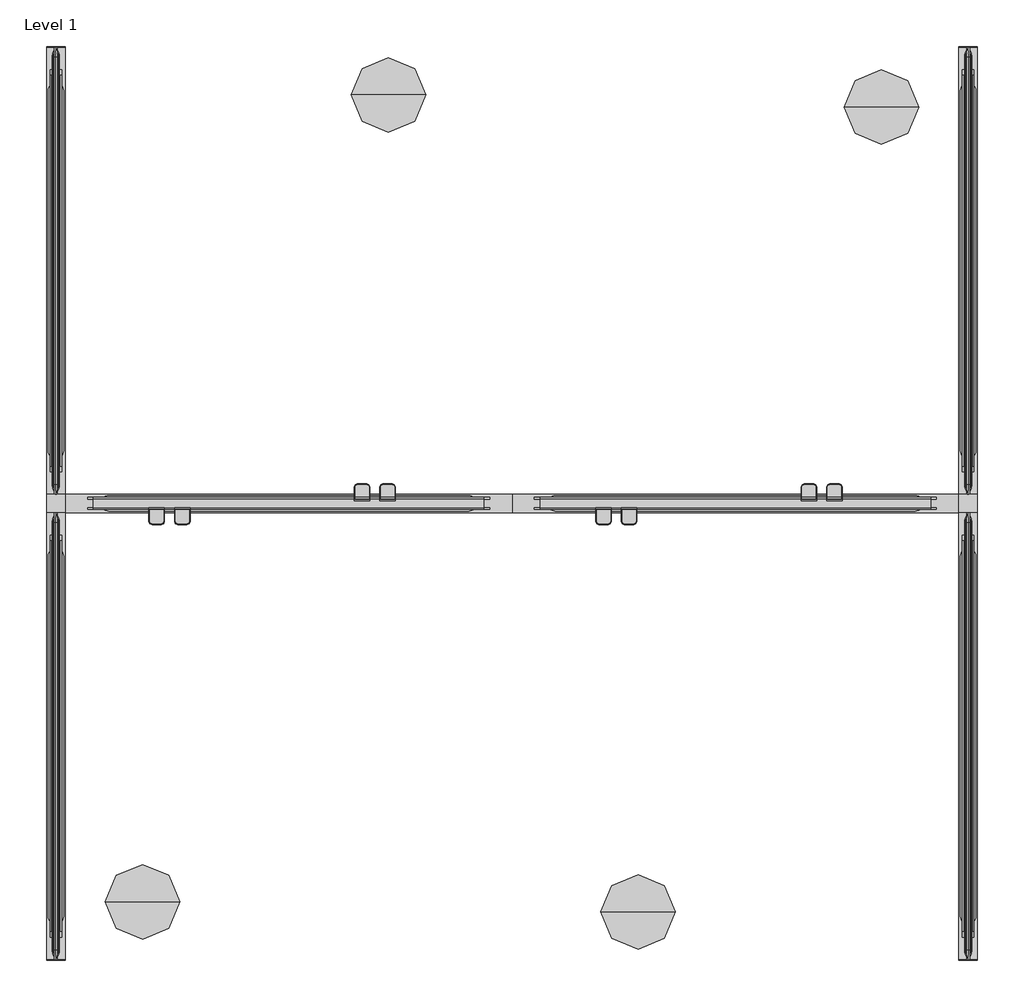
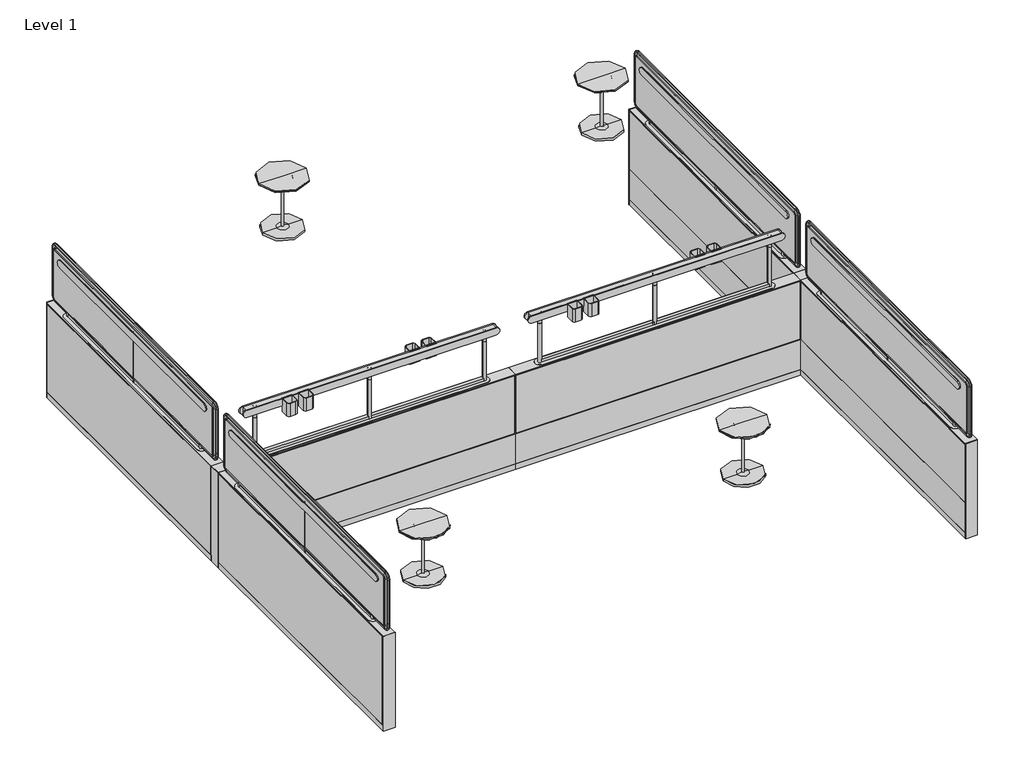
# One storey, incomplete: 22 furniture elements, 4 light fixtures.
"""IFC4 building model written with IfcOpenShell, lengths in millimetres."""

from ifc_helpers import new_model, si_unit, origin, place, context, project, spatial, transform, mapped, element, save
from components import haworth_belong_tool_cup_tool_cup_314b2932, haworth_composeecho_accessoryframe_02b97702, haworth_composeecho_accessoryframe_72w_16h_583df38f, haworth_composeecho_accessoryframe_72w_16h_d8a9d56e, haworth_compose_panel_post_26h_90_degree_7922b5fd, haworth_compose_panel_post_26h_90_degree_e78f71a2, haworth_compose_panel_solid_25h_72w_a4209a23, haworth_compose_panel_solid_25h_72w_62773ed1, haworth_compose_panel_solid_25h_72w_005dc976, haworth_compose_panel_solid_25h_72w_b2298db5, haworth_circa_light_lrt1_1408_table_light_ecc5e699

model = new_model("IFC4")

# Units and contexts
model_context = context("Model", 3, world=origin())
ifc_project = project(units=[si_unit("LENGTHUNIT", "METRE", prefix="MILLI")], contexts=[model_context])

# Site, building, storey
site = spatial("IfcSite", under=ifc_project)
building = spatial("IfcBuilding", under=site)
storey = spatial("IfcBuildingStorey", under=building, Name="Level 1", Elevation=0.0)

# Furniture
placement = place(None, origin())
haworth_belong_tool_cup_tool_cup_shape = haworth_belong_tool_cup_tool_cup_314b2932(model_context)
element("IfcFurniture", 1, ObjectType="Haworth_Belong_Tool_Cup : Tool Cup", at=placement, inside=storey, context=model_context, shape_type="MappedRepresentation", body=[
    mapped(haworth_belong_tool_cup_tool_cup_shape, transform((440.752612, 61.4682245, 917.21305), x_axis=(1.0, 0.0, 0.0), y_axis=(0.0, 1.0, 0.0), z_axis=(0.0, 0.0, 1.0))),
])
element("IfcFurniture", 2, ObjectType="Haworth_Belong_Tool_Cup : Tool Cup", at=placement, inside=storey, context=model_context, shape_type="MappedRepresentation", body=[
    mapped(haworth_belong_tool_cup_tool_cup_shape, transform((335.8950132, 61.4682245, 917.21305), x_axis=(1.0, 0.0, 0.0), y_axis=(0.0, 1.0, 0.0), z_axis=(0.0, 0.0, 1.0))),
])
element("IfcFurniture", 3, ObjectType="Haworth_Belong_Tool_Cup : Tool Cup", at=placement, inside=storey, context=model_context, shape_type="MappedRepresentation", body=[
    mapped(haworth_belong_tool_cup_tool_cup_shape, transform((1611.2967034, 101.1978524, 917.21305), x_axis=(-0.9999999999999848, -1.7484555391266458e-07, 0.0), y_axis=(1.7484555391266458e-07, -0.9999999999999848, 0.0), z_axis=(0.0, 0.0, 1.0))),
])
element("IfcFurniture", 4, ObjectType="Haworth_Belong_Tool_Cup : Tool Cup", at=placement, inside=storey, context=model_context, shape_type="MappedRepresentation", body=[
    mapped(haworth_belong_tool_cup_tool_cup_shape, transform((1506.747908, 101.1978342, 917.21305), x_axis=(-0.9999999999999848, -1.7484555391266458e-07, 0.0), y_axis=(1.7484555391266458e-07, -0.9999999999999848, 0.0), z_axis=(0.0, 0.0, 1.0))),
])
element("IfcFurniture", 5, ObjectType="Haworth_Belong_Tool_Cup : Tool Cup", at=placement, inside=storey, context=model_context, shape_type="MappedRepresentation", body=[
    mapped(haworth_belong_tool_cup_tool_cup_shape, transform((-1388.047388, 61.4682245, 917.21305), x_axis=(1.0, 0.0, 0.0), y_axis=(0.0, 1.0, 0.0), z_axis=(0.0, 0.0, 1.0))),
])
element("IfcFurniture", 6, ObjectType="Haworth_Belong_Tool_Cup : Tool Cup", at=placement, inside=storey, context=model_context, shape_type="MappedRepresentation", body=[
    mapped(haworth_belong_tool_cup_tool_cup_shape, transform((-1492.9049868, 61.4682245, 917.21305), x_axis=(1.0, 0.0, 0.0), y_axis=(0.0, 1.0, 0.0), z_axis=(0.0, 0.0, 1.0))),
])
element("IfcFurniture", 7, ObjectType="Haworth_Belong_Tool_Cup : Tool Cup", at=placement, inside=storey, context=model_context, shape_type="MappedRepresentation", body=[
    mapped(haworth_belong_tool_cup_tool_cup_shape, transform((-217.5032966, 101.1975327, 917.21305), x_axis=(-0.9999999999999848, -1.7484555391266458e-07, 0.0), y_axis=(1.7484555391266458e-07, -0.9999999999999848, 0.0), z_axis=(0.0, 0.0, 1.0))),
])
element("IfcFurniture", 8, ObjectType="Haworth_Belong_Tool_Cup : Tool Cup", at=placement, inside=storey, context=model_context, shape_type="MappedRepresentation", body=[
    mapped(haworth_belong_tool_cup_tool_cup_shape, transform((-322.052092, 101.1975144, 917.21305), x_axis=(-0.9999999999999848, -1.7484555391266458e-07, 0.0), y_axis=(1.7484555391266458e-07, -0.9999999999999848, 0.0), z_axis=(0.0, 0.0, 1.0))),
])
haworth_composeecho_accessoryframe_shape = haworth_composeecho_accessoryframe_02b97702(model_context)
element("IfcFurniture", 9, ObjectType="Haworth_ComposeEcho_AccessoryFrame : 72w 13h No Frame", at=placement, inside=storey, context=model_context, shape_type="MappedRepresentation", body=[
    mapped(haworth_composeecho_accessoryframe_shape, transform((1038.3704052, 84.4867887, -409.575), x_axis=(1.0, 0.0, 0.0), y_axis=(0.0, 1.0, 0.0), z_axis=(0.0, 0.0, 1.0))),
])
element("IfcFurniture", 10, ObjectType="Haworth_ComposeEcho_AccessoryFrame : 72w 13h No Frame", at=placement, inside=storey, context=model_context, shape_type="MappedRepresentation", body=[
    mapped(haworth_composeecho_accessoryframe_shape, transform((-790.4295948, 84.4867887, -409.575), x_axis=(1.0, 0.0, 0.0), y_axis=(0.0, 1.0, 0.0), z_axis=(0.0, 0.0, 1.0))),
])
haworth_composeecho_accessoryframe_72w_16h_shape = haworth_composeecho_accessoryframe_72w_16h_583df38f(model_context)
element("IfcFurniture", 11, ObjectType="Haworth_ComposeEcho_AccessoryFrame : 72w 16h", at=placement, inside=storey, context=model_context, shape_type="MappedRepresentation", body=[
    mapped(haworth_composeecho_accessoryframe_72w_16h_shape, transform((1993.3106844, 1034.546499, -409.575), x_axis=(0.0, 1.0, 0.0), y_axis=(-1.0, 0.0, 0.0), z_axis=(0.0, 0.0, 1.0))),
])
element("IfcFurniture", 12, ObjectType="Haworth_ComposeEcho_AccessoryFrame : 72w 16h", at=placement, inside=storey, context=model_context, shape_type="MappedRepresentation", body=[
    mapped(haworth_composeecho_accessoryframe_72w_16h_shape, transform((-1740.4892938, -865.5729207, -409.575), x_axis=(0.0, -1.0, 0.0), y_axis=(1.0, 0.0, 0.0), z_axis=(0.0, 0.0, 1.0))),
])
haworth_composeecho_accessoryframe_72w_16h_2_shape = haworth_composeecho_accessoryframe_72w_16h_d8a9d56e(model_context)
element("IfcFurniture", 13, ObjectType="Haworth_ComposeEcho_AccessoryFrame : 72w 16h", at=placement, inside=storey, context=model_context, shape_type="MappedRepresentation", body=[
    mapped(haworth_composeecho_accessoryframe_72w_16h_2_shape, transform((1993.3107062, -865.5729207, -409.575), x_axis=(0.0, -1.0, 0.0), y_axis=(1.0, 0.0, 0.0), z_axis=(0.0, 0.0, 1.0))),
])
element("IfcFurniture", 14, ObjectType="Haworth_ComposeEcho_AccessoryFrame : 72w 16h", at=placement, inside=storey, context=model_context, shape_type="MappedRepresentation", body=[
    mapped(haworth_composeecho_accessoryframe_72w_16h_2_shape, transform((-1740.4892938, 1034.546499, -409.575), x_axis=(0.0, 1.0, 0.0), y_axis=(-1.0, 0.0, 0.0), z_axis=(0.0, 0.0, 1.0))),
])
haworth_compose_panel_post_26h_90_degree_shape = haworth_compose_panel_post_26h_90_degree_7922b5fd(model_context)
element("IfcFurniture", 15, ObjectType="Haworth_Compose_Panel_Post : 26h - 90 Degree", at=placement, inside=storey, context=model_context, shape_type="MappedRepresentation", body=[
    mapped(haworth_compose_panel_post_26h_90_degree_shape, transform((1955.2106953, 84.4867892, 0.0), x_axis=(1.0, 0.0, 0.0), y_axis=(0.0, 1.0, 0.0), z_axis=(0.0, 0.0, 1.0))),
])
haworth_compose_panel_post_26h_90_degree_2_shape = haworth_compose_panel_post_26h_90_degree_e78f71a2(model_context)
element("IfcFurniture", 16, ObjectType="Haworth_Compose_Panel_Post : 26h - 90 Degree", at=placement, inside=storey, context=model_context, shape_type="MappedRepresentation", body=[
    mapped(haworth_compose_panel_post_26h_90_degree_2_shape, transform((-1702.3893047, 84.4867892, 0.0), x_axis=(-1.0, 0.0, 0.0), y_axis=(0.0, -1.0, 0.0), z_axis=(0.0, 0.0, 1.0))),
])
haworth_compose_panel_solid_25h_72w_shape = haworth_compose_panel_solid_25h_72w_a4209a23(model_context)
element("IfcFurniture", 17, ObjectType="Haworth_Compose_Panel_Solid : 25h 72w", at=placement, inside=storey, context=model_context, shape_type="MappedRepresentation", body=[
    mapped(haworth_compose_panel_solid_25h_72w_shape, transform((1038.3704052, 84.4867892, 0.0), x_axis=(1.0, 0.0, 0.0), y_axis=(0.0, 1.0, 0.0), z_axis=(0.0, 0.0, 1.0))),
])
haworth_compose_panel_solid_25h_72w_2_shape = haworth_compose_panel_solid_25h_72w_62773ed1(model_context)
element("IfcFurniture", 18, ObjectType="Haworth_Compose_Panel_Solid : 25h 72w", at=placement, inside=storey, context=model_context, shape_type="MappedRepresentation", body=[
    mapped(haworth_compose_panel_solid_25h_72w_2_shape, transform((-785.5490145, 84.4867892, 0.0), x_axis=(-1.0, 0.0, 0.0), y_axis=(0.0, -1.0, 0.0), z_axis=(0.0, 0.0, 1.0))),
])
haworth_compose_panel_solid_25h_72w_3_shape = haworth_compose_panel_solid_25h_72w_005dc976(model_context)
element("IfcFurniture", 19, ObjectType="Haworth_Compose_Panel_Solid : 25h 72w", at=placement, inside=storey, context=model_context, shape_type="MappedRepresentation", body=[
    mapped(haworth_compose_panel_solid_25h_72w_3_shape, transform((1993.3106953, -865.5729207, 0.0), x_axis=(0.0, -1.0, 0.0), y_axis=(1.0, 0.0, 0.0), z_axis=(0.0, 0.0, 1.0))),
])
haworth_compose_panel_solid_25h_72w_4_shape = haworth_compose_panel_solid_25h_72w_b2298db5(model_context)
element("IfcFurniture", 20, ObjectType="Haworth_Compose_Panel_Solid : 25h 72w", at=placement, inside=storey, context=model_context, shape_type="MappedRepresentation", body=[
    mapped(haworth_compose_panel_solid_25h_72w_4_shape, transform((1993.3106953, 1034.546499, 0.0), x_axis=(0.0, 1.0, 0.0), y_axis=(-1.0, 0.0, 0.0), z_axis=(0.0, 0.0, 1.0))),
])
element("IfcFurniture", 21, ObjectType="Haworth_Compose_Panel_Solid : 25h 72w", at=placement, inside=storey, context=model_context, shape_type="MappedRepresentation", body=[
    mapped(haworth_compose_panel_solid_25h_72w_4_shape, transform((-1740.4893047, -865.5729207, 0.0), x_axis=(0.0, -1.0, 0.0), y_axis=(1.0, 0.0, 0.0), z_axis=(0.0, 0.0, 1.0))),
])
element("IfcFurniture", 22, ObjectType="Haworth_Compose_Panel_Solid : 25h 72w", at=placement, inside=storey, context=model_context, shape_type="MappedRepresentation", body=[
    mapped(haworth_compose_panel_solid_25h_72w_3_shape, transform((-1740.4893047, 1034.546499, 0.0), x_axis=(0.0, 1.0, 0.0), y_axis=(-1.0, 0.0, 0.0), z_axis=(0.0, 0.0, 1.0))),
])

# Light fixtures
haworth_circa_light_lrt1_1408_table_light_shape = haworth_circa_light_lrt1_1408_table_light_ecc5e699(model_context)
element("IfcLightFixture", 23, ObjectType="Haworth_Circa_Light : LRT1-1408 - Table Light", at=placement, inside=storey, context=model_context, shape_type="MappedRepresentation", body=[
    mapped(haworth_circa_light_lrt1_1408_table_light_shape, transform((-1414.8682013, -1770.2008324, 0.0), x_axis=(1.0, 0.0, 0.0), y_axis=(0.0, 1.0, 0.0), z_axis=(0.0, 0.0, 1.0))),
])
element("IfcLightFixture", 24, ObjectType="Haworth_Circa_Light : LRT1-1408 - Table Light", at=placement, inside=storey, context=model_context, shape_type="MappedRepresentation", body=[
    mapped(haworth_circa_light_lrt1_1408_table_light_shape, transform((612.8870718, -1811.7641136, 0.0), x_axis=(1.0, 0.0, 0.0), y_axis=(0.0, 1.0, 0.0), z_axis=(0.0, 0.0, 1.0))),
])
element("IfcLightFixture", 25, ObjectType="Haworth_Circa_Light : LRT1-1408 - Table Light", at=placement, inside=storey, context=model_context, shape_type="MappedRepresentation", body=[
    mapped(haworth_circa_light_lrt1_1408_table_light_shape, transform((-349.8710889, 1980.7376814, 0.0), x_axis=(-1.0, 0.0, 0.0), y_axis=(0.0, -1.0, 0.0), z_axis=(0.0, 0.0, 1.0))),
])
element("IfcLightFixture", 26, ObjectType="Haworth_Circa_Light : LRT1-1408 - Table Light", at=placement, inside=storey, context=model_context, shape_type="MappedRepresentation", body=[
    mapped(haworth_circa_light_lrt1_1408_table_light_shape, transform((1667.6895034, 1931.2719528, 0.0), x_axis=(-1.0, 0.0, 0.0), y_axis=(0.0, -1.0, 0.0), z_axis=(0.0, 0.0, 1.0))),
])

save(model, "model.ifc")
